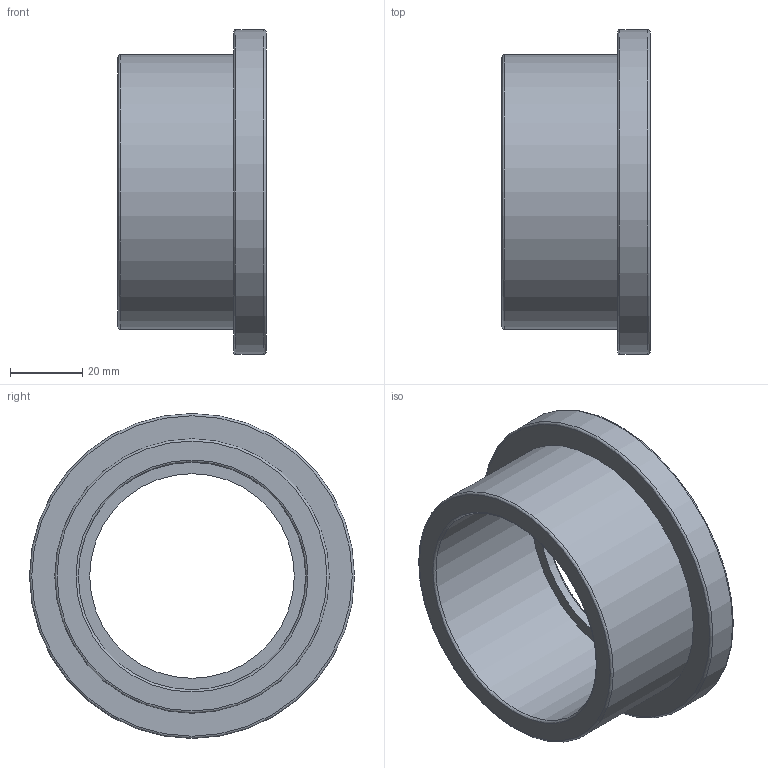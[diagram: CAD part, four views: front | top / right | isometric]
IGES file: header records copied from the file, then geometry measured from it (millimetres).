
Global section: file name: 055100063.ipt; native system: Autodesk Inventor 2015; preprocessor: unknown; author: KIM; date: 20180927.115424; units: millimetre
Bounding box: 41 x 90 x 90 mm (x, y, z)
Volume: 76291.6 mm3; surface area: 25594.6 mm2
Topology: 1 solids, 1 shells, 13 faces, 36 edges, 27 vertices
Faces by surface type: revolution 7, plane 4, cylinder 2
Full cylindrical faces by diameter (mm): 76 x1, 90 x1
